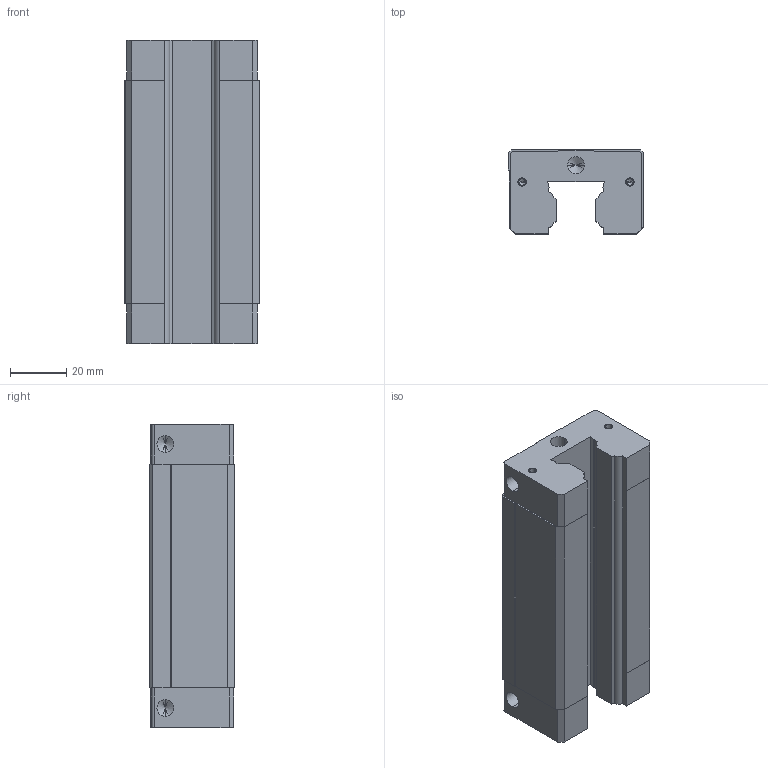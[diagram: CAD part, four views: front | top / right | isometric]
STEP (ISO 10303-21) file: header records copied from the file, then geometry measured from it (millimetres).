
FILE_DESCRIPTION((''),'2;1');
FILE_NAME('1623-2XX-2X','2011-03-03T',('dik1sw'),(''),'PRO/ENGINEER BY PARAMETRIC TECHNOLOGY CORPORATION, 2009380','PRO/ENGINEER BY PARAMETRIC TECHNOLOGY CORPORATION, 2009380','');
FILE_SCHEMA(('AUTOMOTIVE_DESIGN_CC2 { 1 2 10303 214 -1 1 5 2 }'));
Length unit declared in the file: millimetre
Products named in the file (1): 1623-2XX-2X
Bounding box: 48 x 29.9 x 107.9 mm (x, y, z)
Volume: 116434.7 mm3; surface area: 25903.3 mm2
Topology: 1 solids, 9 shells, 146 faces, 390 edges, 242 vertices
Faces by surface type: plane 62, cylinder 56, cone 28
Entity records: 5173 total; most frequent: CARTESIAN_POINT 1271, DIRECTION 752, ORIENTED_EDGE 692, EDGE_CURVE 362, AXIS2_PLACEMENT_3D 259, VERTEX_POINT 242, VECTOR 234, LINE 234
